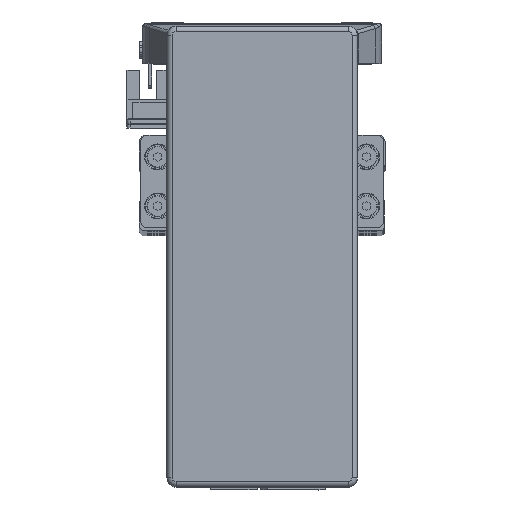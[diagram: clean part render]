
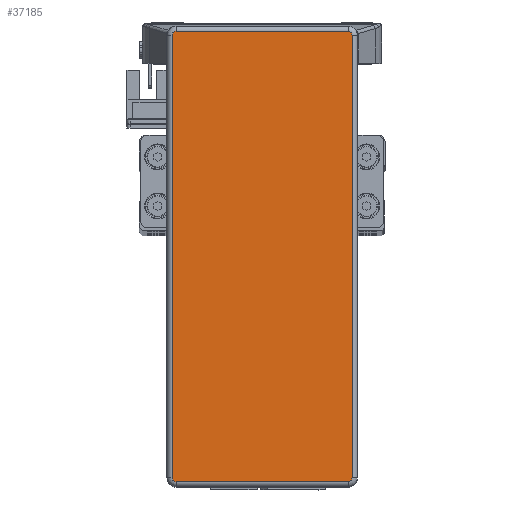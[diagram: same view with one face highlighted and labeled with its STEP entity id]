
A CAD part, top view. The second image highlights one B-rep face of the part: STEP entity #37185.
In plain terms, the highlighted planar face has unit normal (0, 0, 1) as drawn and (0, 0, -1) by its records, which use the part's own axes.
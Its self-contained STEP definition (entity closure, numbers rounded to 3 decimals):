
#3811 = EDGE_CURVE ( 'NONE', #40386, #40454, #44008, .T. ) ;
#3816 = EDGE_CURVE ( 'NONE', #40369, #40413, #43989, .T. ) ;
#3837 = EDGE_CURVE ( 'NONE', #40461, #40399, #43985, .T. ) ;
#3875 = EDGE_CURVE ( 'NONE', #40348, #40342, #44075, .T. ) ;
#3920 = EDGE_CURVE ( 'NONE', #40454, #40461, #44146, .T. ) ;
#3937 = EDGE_CURVE ( 'NONE', #40342, #40386, #44135, .T. ) ;
#3939 = EDGE_CURVE ( 'NONE', #40413, #40348, #44086, .T. ) ;
#3945 = EDGE_CURVE ( 'NONE', #40399, #40369, #44098, .T. ) ;
#4857 = DIRECTION ( 'NONE',  ( 1., 0., 0. ) ) ;
#4899 = CARTESIAN_POINT ( 'NONE',  ( 71.995, 29.295, -32.2 ) ) ;
#4908 = DIRECTION ( 'NONE',  ( -1., 0., 0. ) ) ;
#4933 = CARTESIAN_POINT ( 'NONE',  ( 71.995, -29.295, -32.2 ) ) ;
#4946 = CARTESIAN_POINT ( 'NONE',  ( -73.295, -27.995, -32.2 ) ) ;
#5019 = DIRECTION ( 'NONE',  ( 0., 1., 0. ) ) ;
#5058 = DIRECTION ( 'NONE',  ( 0., -1., 0. ) ) ;
#5099 = CARTESIAN_POINT ( 'NONE',  ( 73.295, -27.995, -32.2 ) ) ;
#5187 = CARTESIAN_POINT ( 'NONE',  ( -71.995, -27.995, -32.2 ) ) ;
#5188 = DIRECTION ( 'NONE',  ( 0., 0., -1. ) ) ;
#5216 = DIRECTION ( 'NONE',  ( 1., 0., 0. ) ) ;
#5221 = CARTESIAN_POINT ( 'NONE',  ( 71.995, 27.995, -32.2 ) ) ;
#5224 = DIRECTION ( 'NONE',  ( 0., 0., -1. ) ) ;
#5248 = DIRECTION ( 'NONE',  ( 1., 0., 0. ) ) ;
#5250 = DIRECTION ( 'NONE',  ( 0., 0., -1. ) ) ;
#5264 = DIRECTION ( 'NONE',  ( 1., 0., 0. ) ) ;
#5278 = DIRECTION ( 'NONE',  ( 1., 0., 0. ) ) ;
#5284 = CARTESIAN_POINT ( 'NONE',  ( -71.995, 27.995, -32.2 ) ) ;
#5291 = DIRECTION ( 'NONE',  ( 0., 0., -1. ) ) ;
#5292 = CARTESIAN_POINT ( 'NONE',  ( 71.995, -27.995, -32.2 ) ) ;
#6399 = ORIENTED_EDGE ( 'NONE', *, *, #3937, .T. ) ;
#6418 = ORIENTED_EDGE ( 'NONE', *, *, #3837, .T. ) ;
#6477 = ORIENTED_EDGE ( 'NONE', *, *, #3816, .T. ) ;
#6488 = ORIENTED_EDGE ( 'NONE', *, *, #3920, .T. ) ;
#6491 = ORIENTED_EDGE ( 'NONE', *, *, #3939, .T. ) ;
#6497 = ORIENTED_EDGE ( 'NONE', *, *, #3875, .T. ) ;
#6498 = ORIENTED_EDGE ( 'NONE', *, *, #3945, .T. ) ;
#6513 = ORIENTED_EDGE ( 'NONE', *, *, #3811, .T. ) ;
#12691 = AXIS2_PLACEMENT_3D ( 'NONE', #21071, #21089, #21062 ) ;
#17532 = CARTESIAN_POINT ( 'NONE',  ( 73.295, 27.995, -32.2 ) ) ;
#17579 = CARTESIAN_POINT ( 'NONE',  ( 73.295, -27.995, -32.2 ) ) ;
#17600 = CARTESIAN_POINT ( 'NONE',  ( 71.995, 29.295, -32.2 ) ) ;
#17614 = CARTESIAN_POINT ( 'NONE',  ( -71.995, 29.295, -32.2 ) ) ;
#17630 = CARTESIAN_POINT ( 'NONE',  ( 71.995, -29.295, -32.2 ) ) ;
#17634 = CARTESIAN_POINT ( 'NONE',  ( -73.295, 27.995, -32.2 ) ) ;
#17650 = CARTESIAN_POINT ( 'NONE',  ( -73.295, -27.995, -32.2 ) ) ;
#17679 = CARTESIAN_POINT ( 'NONE',  ( -71.995, -29.295, -32.2 ) ) ;
#21042 = PLANE ( 'NONE',  #12691 ) ;
#21062 = DIRECTION ( 'NONE',  ( 1., 0., 0. ) ) ;
#21071 = CARTESIAN_POINT ( 'NONE',  ( 71.995, -27.995, -32.2 ) ) ;
#21089 = DIRECTION ( 'NONE',  ( 0., 0., 1. ) ) ;
#22189 = FACE_OUTER_BOUND ( 'NONE', #39474, .T. ) ;
#23688 = AXIS2_PLACEMENT_3D ( 'NONE', #5187, #5188, #5216 ) ;
#23694 = AXIS2_PLACEMENT_3D ( 'NONE', #5292, #5250, #5264 ) ;
#23695 = AXIS2_PLACEMENT_3D ( 'NONE', #5221, #5224, #5278 ) ;
#23719 = AXIS2_PLACEMENT_3D ( 'NONE', #5284, #5291, #5248 ) ;
#37185 = ADVANCED_FACE ( 'NONE', ( #22189 ), #21042, .F. ) ;
#39474 = EDGE_LOOP ( 'NONE', ( #6497, #6399, #6513, #6488, #6418, #6498, #6477, #6491 ) ) ;
#40342 = VERTEX_POINT ( 'NONE', #17579 ) ;
#40348 = VERTEX_POINT ( 'NONE', #17532 ) ;
#40369 = VERTEX_POINT ( 'NONE', #17614 ) ;
#40386 = VERTEX_POINT ( 'NONE', #17630 ) ;
#40399 = VERTEX_POINT ( 'NONE', #17634 ) ;
#40413 = VERTEX_POINT ( 'NONE', #17600 ) ;
#40454 = VERTEX_POINT ( 'NONE', #17679 ) ;
#40461 = VERTEX_POINT ( 'NONE', #17650 ) ;
#43984 = VECTOR ( 'NONE', #4908, 1000. ) ;
#43985 = LINE ( 'NONE', #4946, #44080 ) ;
#43989 = LINE ( 'NONE', #4899, #44009 ) ;
#44008 = LINE ( 'NONE', #4933, #43984 ) ;
#44009 = VECTOR ( 'NONE', #4857, 1000. ) ;
#44028 = VECTOR ( 'NONE', #5058, 1000. ) ;
#44075 = LINE ( 'NONE', #5099, #44028 ) ;
#44080 = VECTOR ( 'NONE', #5019, 1000. ) ;
#44086 = CIRCLE ( 'NONE', #23695, 1.3 ) ;
#44098 = CIRCLE ( 'NONE', #23719, 1.3 ) ;
#44135 = CIRCLE ( 'NONE', #23694, 1.3 ) ;
#44146 = CIRCLE ( 'NONE', #23688, 1.3 ) ;
